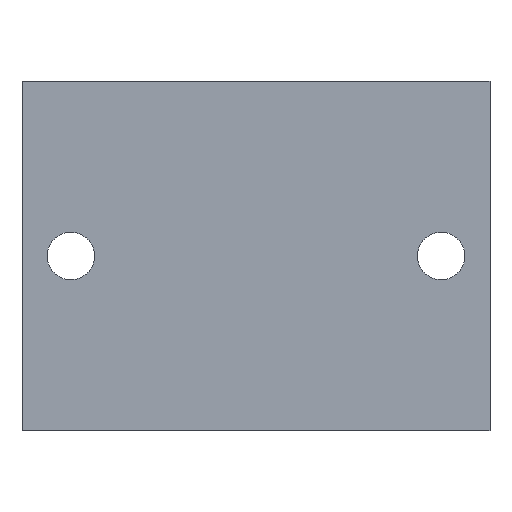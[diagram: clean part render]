
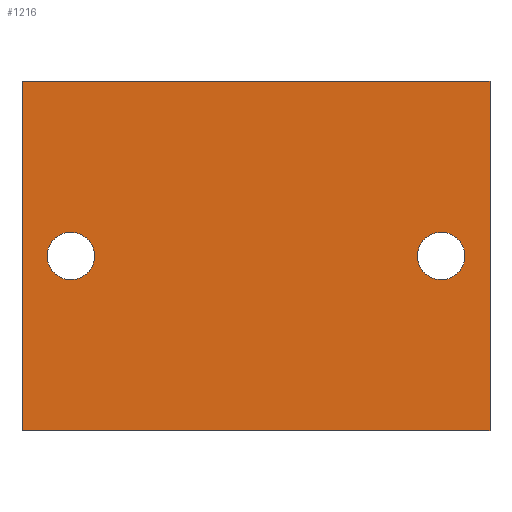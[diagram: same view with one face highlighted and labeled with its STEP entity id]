
A CAD part, front view. The second image highlights one B-rep face of the part: STEP entity #1216.
In plain terms, the highlighted planar face has unit normal (0, -1, 0).
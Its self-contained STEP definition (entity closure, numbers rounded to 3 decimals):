
#1 = CARTESIAN_POINT ( 'NONE',  ( -26.5, -30., -3.4 ) ) ;
#15 = FACE_BOUND ( 'NONE', #695, .T. ) ;
#17 = AXIS2_PLACEMENT_3D ( 'NONE', #1190, #1171, #613 ) ;
#39 = DIRECTION ( 'NONE',  ( 0., -1., 0. ) ) ;
#89 = DIRECTION ( 'NONE',  ( 0., 0., -1. ) ) ;
#90 = EDGE_CURVE ( 'NONE', #1182, #982, #1498, .T. ) ;
#128 = EDGE_CURVE ( 'NONE', #982, #1182, #320, .T. ) ;
#166 = VERTEX_POINT ( 'NONE', #957 ) ;
#271 = CARTESIAN_POINT ( 'NONE',  ( 26.5, -30., 0. ) ) ;
#320 = CIRCLE ( 'NONE', #17, 3.4 ) ;
#324 = CARTESIAN_POINT ( 'NONE',  ( -33.5, -30., 25. ) ) ;
#332 = AXIS2_PLACEMENT_3D ( 'NONE', #271, #39, #500 ) ;
#389 = CARTESIAN_POINT ( 'NONE',  ( -33.5, -30., -25. ) ) ;
#399 = ORIENTED_EDGE ( 'NONE', *, *, #629, .F. ) ;
#427 = CARTESIAN_POINT ( 'NONE',  ( 26.5, -30., 0. ) ) ;
#436 = DIRECTION ( 'NONE',  ( 1., 0., 0. ) ) ;
#449 = EDGE_CURVE ( 'NONE', #710, #1455, #1443, .T. ) ;
#478 = DIRECTION ( 'NONE',  ( 0., 1., 0. ) ) ;
#488 = EDGE_CURVE ( 'NONE', #1398, #166, #1116, .T. ) ;
#500 = DIRECTION ( 'NONE',  ( 0., 0., -1. ) ) ;
#509 = AXIS2_PLACEMENT_3D ( 'NONE', #712, #478, #1067 ) ;
#511 = VECTOR ( 'NONE', #621, 1000. ) ;
#516 = ORIENTED_EDGE ( 'NONE', *, *, #488, .T. ) ;
#538 = AXIS2_PLACEMENT_3D ( 'NONE', #427, #1243, #785 ) ;
#598 = VERTEX_POINT ( 'NONE', #1262 ) ;
#613 = DIRECTION ( 'NONE',  ( 0., 0., -1. ) ) ;
#621 = DIRECTION ( 'NONE',  ( 1., 0., 0. ) ) ;
#629 = EDGE_CURVE ( 'NONE', #598, #976, #1263, .T. ) ;
#695 = EDGE_LOOP ( 'NONE', ( #1308, #942 ) ) ;
#710 = VERTEX_POINT ( 'NONE', #910 ) ;
#712 = CARTESIAN_POINT ( 'NONE',  ( -33.5, -30., 25. ) ) ;
#716 = DIRECTION ( 'NONE',  ( 0., 0., -1. ) ) ;
#724 = CARTESIAN_POINT ( 'NONE',  ( -26.5, -30., 0. ) ) ;
#778 = AXIS2_PLACEMENT_3D ( 'NONE', #724, #1053, #716 ) ;
#780 = VECTOR ( 'NONE', #436, 1000. ) ;
#785 = DIRECTION ( 'NONE',  ( 0., 0., -1. ) ) ;
#788 = CARTESIAN_POINT ( 'NONE',  ( 33.5, -30., -25. ) ) ;
#910 = CARTESIAN_POINT ( 'NONE',  ( 26.5, -30., -3.4 ) ) ;
#924 = CARTESIAN_POINT ( 'NONE',  ( 33.5, -30., 25. ) ) ;
#926 = ORIENTED_EDGE ( 'NONE', *, *, #1367, .F. ) ;
#942 = ORIENTED_EDGE ( 'NONE', *, *, #128, .F. ) ;
#950 = ORIENTED_EDGE ( 'NONE', *, *, #1421, .T. ) ;
#957 = CARTESIAN_POINT ( 'NONE',  ( -33.5, -30., -25. ) ) ;
#976 = VERTEX_POINT ( 'NONE', #788 ) ;
#982 = VERTEX_POINT ( 'NONE', #1250 ) ;
#1022 = VECTOR ( 'NONE', #89, 1000. ) ;
#1035 = EDGE_CURVE ( 'NONE', #1398, #598, #1256, .T. ) ;
#1053 = DIRECTION ( 'NONE',  ( 0., -1., 0. ) ) ;
#1067 = DIRECTION ( 'NONE',  ( 0., 0., 1. ) ) ;
#1080 = CARTESIAN_POINT ( 'NONE',  ( 26.5, -30., 3.4 ) ) ;
#1116 = LINE ( 'NONE', #1246, #1022 ) ;
#1122 = CARTESIAN_POINT ( 'NONE',  ( -33.5, -30., 25. ) ) ;
#1145 = PLANE ( 'NONE',  #509 ) ;
#1150 = FACE_BOUND ( 'NONE', #1241, .T. ) ;
#1171 = DIRECTION ( 'NONE',  ( 0., -1., 0. ) ) ;
#1182 = VERTEX_POINT ( 'NONE', #1 ) ;
#1189 = LINE ( 'NONE', #389, #511 ) ;
#1190 = CARTESIAN_POINT ( 'NONE',  ( -26.5, -30., 0. ) ) ;
#1216 = ADVANCED_FACE ( 'NONE', ( #15, #1150, #1399 ), #1145, .F. ) ;
#1224 = ORIENTED_EDGE ( 'NONE', *, *, #1035, .F. ) ;
#1241 = EDGE_LOOP ( 'NONE', ( #1434, #926 ) ) ;
#1243 = DIRECTION ( 'NONE',  ( 0., -1., 0. ) ) ;
#1246 = CARTESIAN_POINT ( 'NONE',  ( -33.5, -30., 25. ) ) ;
#1250 = CARTESIAN_POINT ( 'NONE',  ( -26.5, -30., 3.4 ) ) ;
#1256 = LINE ( 'NONE', #1122, #780 ) ;
#1262 = CARTESIAN_POINT ( 'NONE',  ( 33.5, -30., 25. ) ) ;
#1263 = LINE ( 'NONE', #924, #1400 ) ;
#1279 = DIRECTION ( 'NONE',  ( 0., 0., -1. ) ) ;
#1308 = ORIENTED_EDGE ( 'NONE', *, *, #90, .F. ) ;
#1361 = CIRCLE ( 'NONE', #538, 3.4 ) ;
#1367 = EDGE_CURVE ( 'NONE', #1455, #710, #1361, .T. ) ;
#1398 = VERTEX_POINT ( 'NONE', #324 ) ;
#1399 = FACE_OUTER_BOUND ( 'NONE', #1422, .T. ) ;
#1400 = VECTOR ( 'NONE', #1279, 1000. ) ;
#1421 = EDGE_CURVE ( 'NONE', #166, #976, #1189, .T. ) ;
#1422 = EDGE_LOOP ( 'NONE', ( #950, #399, #1224, #516 ) ) ;
#1434 = ORIENTED_EDGE ( 'NONE', *, *, #449, .F. ) ;
#1443 = CIRCLE ( 'NONE', #332, 3.4 ) ;
#1455 = VERTEX_POINT ( 'NONE', #1080 ) ;
#1498 = CIRCLE ( 'NONE', #778, 3.4 ) ;
